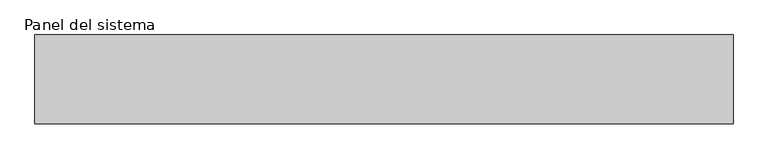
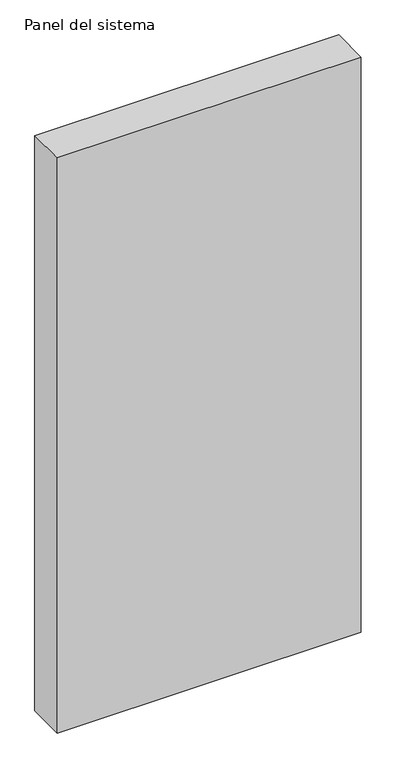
"""IFC4 building model written with IfcOpenShell, lengths in millimetres: plate geometry, Panel del sistema : Hiansa Panel - Fachada Panel FRIGO - 140mm."""

import ifcopenshell
import ifcopenshell.guid

model = None  # the IFC model being written
_history = None  # IfcOwnerHistory: only IFC2X3 demands one
_inside = {}  # id of a spatial element -> (the spatial element, [elements in it])
_under = {}  # id of a project, library or spatial element -> (it, [spatial elements below it])
_declared = {}  # id of a project -> (the project, [libraries it declares])
_typed = {}  # id of a type object -> (the type object, [elements of that type])
_made_of = {}  # id of a material, layer set ... -> (it, [elements and type objects made of it])


def new_model(schema):
    """Start an empty IFC model of exactly this schema.

    Asked for "IFC4X3", IfcOpenShell would pick the latest addendum, in which some entities
    have other attributes; the version numbers below select the first issue.
    IFC2X3 requires an IfcOwnerHistory on every rooted entity: one is made here for all.
    """
    global model, _history
    if schema == "IFC4X3":
        model = ifcopenshell.file(schema_version=(4, 3, 0, 0))
    else:
        model = ifcopenshell.file(schema=schema)
    _inside.clear()
    _under.clear()
    _declared.clear()
    _typed.clear()
    _made_of.clear()
    _history = None
    if model.schema == "IFC2X3":
        org = make("IfcOrganization", Name="unknown")
        user = make(
            "IfcPersonAndOrganization",
            ThePerson=make("IfcPerson", FamilyName="unknown"),
            TheOrganization=org,
        )
        app = make(
            "IfcApplication",
            ApplicationDeveloper=org,
            Version="unknown",
            ApplicationFullName="unknown",
            ApplicationIdentifier="unknown",
        )
        _history = make(
            "IfcOwnerHistory",
            OwningUser=user,
            OwningApplication=app,
            ChangeAction="ADDED",
            CreationDate=0,
        )
    return model


def make(cls, **values):
    """One entity of the class cls with the attributes given. An attribute that is None is left unset."""
    return model.create_entity(
        cls, **{name: value for name, value in values.items() if value is not None}
    )


def rooted(cls, **values):
    """An entity with a GlobalId (a new one), such as an element, a storey or a relation."""
    return make(cls, GlobalId=ifcopenshell.guid.new(), OwnerHistory=_history, **values)


def si_unit(unit_type, name, prefix=None):
    """IfcSIUnit, for example si_unit("LENGTHUNIT", "METRE", prefix="MILLI")."""
    return make("IfcSIUnit", UnitType=unit_type, Prefix=prefix, Name=name)


def assignment(units):
    """IfcUnitAssignment: the units of a project."""
    return None if units is None else make("IfcUnitAssignment", Units=units)


def point(xyz):
    """IfcCartesianPoint."""
    return None if xyz is None else make("IfcCartesianPoint", Coordinates=xyz)


def direction(xyz):
    """IfcDirection."""
    return None if xyz is None else make("IfcDirection", DirectionRatios=xyz)


def frame(location, z_axis=None, x_axis=None):
    """IfcAxis2Placement3D, a coordinate frame: its origin and axes. An axis left out is left unset."""
    return make(
        "IfcAxis2Placement3D",
        Location=point(location),
        Axis=direction(z_axis),
        RefDirection=direction(x_axis),
    )


def origin():
    """The frame at (0, 0, 0) with its axes left unset."""
    return frame((0.0, 0.0, 0.0))


def origin_with_axes():
    """The frame at (0, 0, 0) with the z axis (0, 0, 1) and the x axis (1, 0, 0) written out."""
    return frame((0.0, 0.0, 0.0), z_axis=(0.0, 0.0, 1.0), x_axis=(1.0, 0.0, 0.0))


def place(relative_to, where):
    """IfcLocalPlacement: puts the frame where relative to a parent placement (None: the world)."""
    return make(
        "IfcLocalPlacement", PlacementRelTo=relative_to, RelativePlacement=where
    )


def context(
    kind, dimensions, precision=None, world=None, true_north=None, identifier=None
):
    """IfcGeometricRepresentationContext, for example the 3D "Model" context."""
    return make(
        "IfcGeometricRepresentationContext",
        ContextIdentifier=identifier,
        ContextType=kind,
        CoordinateSpaceDimension=dimensions,
        Precision=precision,
        WorldCoordinateSystem=world,
        TrueNorth=true_north,
    )


def project(units=None, contexts=None):
    """IfcProject with its units and contexts."""
    return rooted(
        "IfcProject",
        Name="project",
        RepresentationContexts=contexts,
        UnitsInContext=assignment(units),
    )


def spatial(cls, under=None, at=None, **own):
    """A site, building, storey or space (cls), placed at a placement, below another one or the project."""
    s = rooted(cls, ObjectPlacement=at, **own)
    if under is not None:
        _under.setdefault(under.id(), (under, []))[1].append(s)
    return s


def polyline(points):
    """IfcPolyline through the points."""
    return make("IfcPolyline", Points=[point(p) for p in points])


def outline(outer, holes=None, kind="AREA"):
    """IfcArbitraryClosedProfileDef: a profile drawn as a closed curve; with holes, ...WithVoids."""
    if holes is None:
        return make("IfcArbitraryClosedProfileDef", ProfileType=kind, OuterCurve=outer)
    return make(
        "IfcArbitraryProfileDefWithVoids",
        ProfileType=kind,
        OuterCurve=outer,
        InnerCurves=holes,
    )


def extrude(swept, where, along, depth):
    """IfcExtrudedAreaSolid: the profile swept, set in the frame where, extruded along a direction by depth."""
    return make(
        "IfcExtrudedAreaSolid",
        SweptArea=swept,
        Position=where,
        ExtrudedDirection=direction(along),
        Depth=depth,
    )


def shape(context_of_items, identifier, shape_type, items):
    """IfcShapeRepresentation: the items that make up one representation, for example the "Body"."""
    return make(
        "IfcShapeRepresentation",
        ContextOfItems=context_of_items,
        RepresentationIdentifier=identifier,
        RepresentationType=shape_type,
        Items=items,
    )


def source(mapping_origin, context_of_items, identifier, shape_type, items):
    """IfcRepresentationMap: a shape defined once, which mapped items show again and again."""
    return make(
        "IfcRepresentationMap",
        MappingOrigin=mapping_origin,
        MappedRepresentation=shape(context_of_items, identifier, shape_type, items),
    )


def transform(
    local_origin,
    x_axis=None,
    y_axis=None,
    z_axis=None,
    scale=None,
    scale2=None,
    scale3=None,
    uniform=True,
):
    """IfcCartesianTransformationOperator3D, or its non-uniform kind. x_axis, y_axis, z_axis: its Axis1, 2, 3."""
    if uniform:
        return make(
            "IfcCartesianTransformationOperator3D",
            Axis1=direction(x_axis),
            Axis2=direction(y_axis),
            LocalOrigin=point(local_origin),
            Scale=scale,
            Axis3=direction(z_axis),
        )
    return make(
        "IfcCartesianTransformationOperator3DnonUniform",
        Axis1=direction(x_axis),
        Axis2=direction(y_axis),
        LocalOrigin=point(local_origin),
        Scale=scale,
        Axis3=direction(z_axis),
        Scale2=scale2,
        Scale3=scale3,
    )


def mapped(mapping_source, mapping_target):
    """IfcMappedItem: shows the shape of a source again, moved by a transform."""
    return make(
        "IfcMappedItem", MappingSource=mapping_source, MappingTarget=mapping_target
    )


def made_of(thing, what):
    """Note that an element or type object is made of a material, layer set ...; save() writes the relation."""
    if what is not None:
        _made_of.setdefault(what.id(), (what, []))[1].append(thing)
    return thing


def element(
    cls,
    number,
    at=None,
    inside=None,
    cuts=None,
    type_object=None,
    material=None,
    context=None,
    identifier="Body",
    shape_type=None,
    held_by="IfcProductDefinitionShape",
    body=None,
    shapes=None,
    **own,
):
    """One element of the class cls, such as IfcWall. Its Tag is "e" and its number.

    at: its placement. inside: the storey or other place that contains it. cuts: it is an
    opening in that element (IfcRelVoidsElement). A single representation is given by context,
    identifier, shape_type and body (its items); several are given by shapes. held_by: the class
    of the entity that holds the representations. save() writes the other relations.
    """
    e = rooted(cls, Tag="e%d" % number, ObjectPlacement=at, **own)
    if body is not None:
        shapes = [shape(context, identifier, shape_type, body)]
    if shapes is not None:
        e.Representation = make(held_by, Representations=shapes)
    if inside is not None:
        _inside.setdefault(inside.id(), (inside, []))[1].append(e)
    if cuts is not None:
        rooted(
            "IfcRelVoidsElement", RelatingBuildingElement=cuts, RelatedOpeningElement=e
        )
    if type_object is not None:
        _typed.setdefault(type_object.id(), (type_object, []))[1].append(e)
    return made_of(e, material)


def aggregate(whole, parts):
    """IfcRelAggregates: a whole, such as a stair, and the parts it consists of."""
    return rooted("IfcRelAggregates", RelatingObject=whole, RelatedObjects=parts)


def save(model, path):
    """Write the relations noted so far, then the file.

    IfcRelAggregates (storeys below a building ...), IfcRelContainedInSpatialStructure (elements
    in a storey), IfcRelDefinesByType, IfcRelAssociatesMaterial and IfcRelDeclares: one each for
    every whole, place, type object, material and project.
    """
    for whole, parts in _under.values():
        aggregate(whole, parts)
    for where, things in _inside.values():
        rooted(
            "IfcRelContainedInSpatialStructure",
            RelatedElements=things,
            RelatingStructure=where,
        )
    for kind, things in _typed.values():
        rooted("IfcRelDefinesByType", RelatedObjects=things, RelatingType=kind)
    for what, things in _made_of.values():
        rooted("IfcRelAssociatesMaterial", RelatedObjects=things, RelatingMaterial=what)
    for by, libraries in _declared.values():
        rooted("IfcRelDeclares", RelatingContext=by, RelatedDefinitions=libraries)
    model.write(path)


def panel_del_sistema_e1a72ffe(model_context):
    return source(origin(), model_context, "Body", "SweptSolid", [
        extrude(outline(polyline([(550.0000002, -140.0), (-550.0000002, -140.0), (-550.0000002, 0.0), (550.0000002, 0.0), (550.0000002, -140.0)])), origin_with_axes(), (0.0, 0.0, 1.0), 2200.0),
    ])


if __name__ == "__main__":
    model = new_model("IFC4")
    model_context = context("Model", 3, world=origin())
    ifc_project = project(units=[si_unit("LENGTHUNIT", "METRE", prefix="MILLI")], contexts=[model_context])
    site = spatial("IfcSite", under=ifc_project)
    building = spatial("IfcBuilding", under=site)
    placement = place(None, origin())
    panel_del_sistema_shape = panel_del_sistema_e1a72ffe(model_context)
    element("IfcPlate", 1, ObjectType="Panel del sistema : Hiansa Panel - Fachada Panel FRIGO - 140mm", at=placement, inside=building, context=model_context, shape_type="MappedRepresentation", body=[
        mapped(panel_del_sistema_shape, transform((0.0, 0.0, 0.0), x_axis=(1.0, 0.0, 0.0), y_axis=(0.0, 1.0, 0.0), z_axis=(0.0, 0.0, 1.0))),
    ])
    save(model, "model.ifc")
